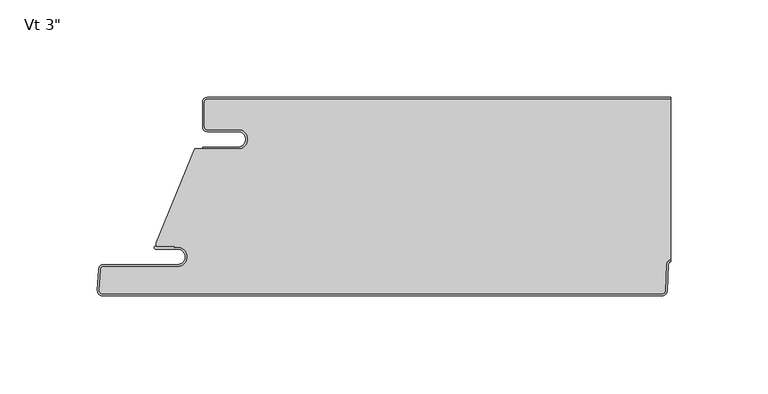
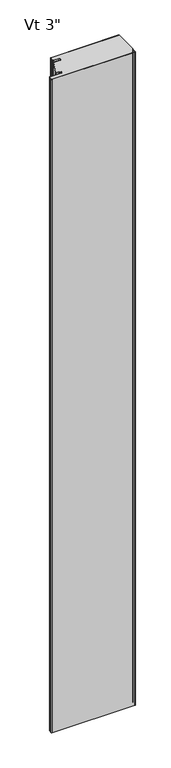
"""IFC4 building model written with IfcOpenShell, lengths in millimetres: plate geometry."""

from ifc_helpers import new_model, si_unit, point, frame_2d, origin, origin_with_axes, place, context, project, spatial, polyline, circle_curve, trimmed, segment, composite_curve, outline, extrude, source, transform, mapped, element, save


def plate_7b326403(model_context):
    return source(origin(), model_context, "Body", "SweptSolid", [
        extrude(outline(composite_curve([segment(polyline([(-101.3437498, -16.4625), (-117.2187498, -16.4625)]), True, "CONTINUOUS"), segment(trimmed(circle_curve(frame_2d((-117.2187498, -15.08125)), 1.38125), [point((-117.2187498, -16.4625))], [point((-118.5999998, -15.08125))], False, "CARTESIAN"), True, "CONTINUOUS"), segment(polyline([(-118.5999998, -15.08125), (-118.5999998, -2.38125)]), True, "CONTINUOUS"), segment(trimmed(circle_curve(frame_2d((-117.2187498, -2.38125)), 1.38125), [point((-118.5999998, -2.38125))], [point((-117.2187498, -1.0))], False, "CARTESIAN"), True, "CONTINUOUS"), segment(polyline([(-117.2187498, -1.0), (120.4062498, -1.0), (120.4062498, -83.191556)]), True, "CONTINUOUS"), segment(trimmed(circle_curve(frame_2d((120.9323848, -85.725)), 2.5875), [point((120.4062498, -83.191556))], [point((118.3484309, -85.5895807))], True, "CARTESIAN"), True, "CONTINUOUS"), segment(polyline([(118.3484309, -85.5895807), (117.6303679, -99.291039)]), True, "CONTINUOUS"), segment(trimmed(circle_curve(frame_2d((116.2510108, -99.21875)), 1.38125), [point((117.6303679, -99.291039))], [point((116.2510108, -100.6))], False, "CARTESIAN"), True, "CONTINUOUS"), segment(polyline([(116.2510108, -100.6), (-171.0799534, -100.6)]), True, "CONTINUOUS"), segment(trimmed(circle_curve(frame_2d((-171.0799534, -99.21875)), 1.38125), [point((-171.0799534, -100.6))], [point((-172.4593104, -99.146461))], False, "CARTESIAN"), True, "CONTINUOUS"), segment(polyline([(-172.4593104, -99.146461), (-171.876929, -88.033961)]), True, "CONTINUOUS"), segment(trimmed(circle_curve(frame_2d((-170.4975719, -88.10625)), 1.38125), [point((-171.876929, -88.033961))], [point((-170.4975719, -86.725))], False, "CARTESIAN"), True, "CONTINUOUS"), segment(polyline([(-170.4975719, -86.725), (-132.3142673, -86.725)]), True, "CONTINUOUS"), segment(trimmed(circle_curve(frame_2d((-132.3142673, -81.75625)), 4.96875), [point((-132.3142673, -86.725))], [point((-132.3142673, -76.7875))], True, "CARTESIAN"), True, "CONTINUOUS"), segment(polyline([(-132.3142673, -76.7875), (-133.9017673, -76.99375), (-133.9017673, -76.2), (-143.4124998, -76.2), (-143.4124998, -74.6157227), (-123.5260921, -26.4), (-101.3437498, -26.4)]), True, "CONTINUOUS"), segment(trimmed(circle_curve(frame_2d((-101.3437498, -21.43125)), 4.96875), [point((-101.3437498, -26.4))], [point((-101.3437498, -16.4625))], True, "CARTESIAN"), True, "CONTINUOUS")], self_intersect=False)), origin_with_axes(), (0.0, 0.0, 1.0), 2400.0),
        extrude(outline(composite_curve([segment(polyline([(-119.5999998, -25.4), (-101.3437498, -25.4)]), True, "CONTINUOUS"), segment(trimmed(circle_curve(frame_2d((-101.3437498, -21.43125)), 3.96875), [point((-101.3437498, -25.4))], [point((-101.3437498, -17.4625))], True, "CARTESIAN"), True, "CONTINUOUS"), segment(polyline([(-101.3437498, -17.4625), (-117.2187498, -17.4625)]), True, "CONTINUOUS"), segment(trimmed(circle_curve(frame_2d((-117.2187498, -15.08125)), 2.38125), [point((-117.2187498, -17.4625))], [point((-119.5999998, -15.08125))], False, "CARTESIAN"), True, "CONTINUOUS"), segment(polyline([(-119.5999998, -15.08125), (-119.5999998, -2.38125)]), True, "CONTINUOUS"), segment(trimmed(circle_curve(frame_2d((-117.2187498, -2.38125)), 2.38125), [point((-119.5999998, -2.38125))], [point((-117.2187498, 0.0))], False, "CARTESIAN"), True, "CONTINUOUS"), segment(polyline([(-117.2187498, 0.0), (120.4062498, 0.0), (120.4062498, -1.0), (-117.2187498, -1.0)]), True, "CONTINUOUS"), segment(trimmed(circle_curve(frame_2d((-117.2187498, -2.38125)), 1.38125), [point((-117.2187498, -1.0))], [point((-118.5999998, -2.38125))], True, "CARTESIAN"), True, "CONTINUOUS"), segment(polyline([(-118.5999998, -2.38125), (-118.5999998, -15.08125)]), True, "CONTINUOUS"), segment(trimmed(circle_curve(frame_2d((-117.2187498, -15.08125)), 1.38125), [point((-118.5999998, -15.08125))], [point((-117.2187498, -16.4625))], True, "CARTESIAN"), True, "CONTINUOUS"), segment(polyline([(-117.2187498, -16.4625), (-101.3437498, -16.4625)]), True, "CONTINUOUS"), segment(trimmed(circle_curve(frame_2d((-101.3437498, -21.43125)), 4.96875), [point((-101.3437498, -16.4625))], [point((-101.3437498, -26.4))], False, "CARTESIAN"), True, "CONTINUOUS"), segment(polyline([(-101.3437498, -26.4), (-119.5999998, -26.4), (-119.5999998, -25.4)]), True, "CONTINUOUS")], self_intersect=False)), origin_with_axes(), (0.0, 0.0, 1.0), 2400.0),
        extrude(outline(composite_curve([segment(polyline([(-143.6252048, -76.2), (-133.9017673, -76.2), (-133.9017673, -76.99375), (-132.3142673, -76.7875)]), True, "CONTINUOUS"), segment(trimmed(circle_curve(frame_2d((-132.3142673, -81.75625)), 4.96875), [point((-132.3142673, -76.7875))], [point((-132.3142673, -86.725))], False, "CARTESIAN"), True, "CONTINUOUS"), segment(polyline([(-132.3142673, -86.725), (-170.4975719, -86.725)]), True, "CONTINUOUS"), segment(trimmed(circle_curve(frame_2d((-170.4975719, -88.10625)), 1.38125), [point((-170.4975719, -86.725))], [point((-171.876929, -88.033961))], True, "CARTESIAN"), True, "CONTINUOUS"), segment(polyline([(-171.876929, -88.033961), (-172.4593104, -99.146461)]), True, "CONTINUOUS"), segment(trimmed(circle_curve(frame_2d((-171.0799534, -99.21875)), 1.38125), [point((-172.4593104, -99.146461))], [point((-171.0799534, -100.6))], True, "CARTESIAN"), True, "CONTINUOUS"), segment(polyline([(-171.0799534, -100.6), (116.2510108, -100.6)]), True, "CONTINUOUS"), segment(trimmed(circle_curve(frame_2d((116.2510108, -99.21875)), 1.38125), [point((116.2510108, -100.6))], [point((117.6303679, -99.291039))], True, "CARTESIAN"), True, "CONTINUOUS"), segment(polyline([(117.6303679, -99.291039), (118.3484309, -85.5895807)]), True, "CONTINUOUS"), segment(trimmed(circle_curve(frame_2d((120.9323848, -85.725)), 2.5875), [point((118.3484309, -85.5895807))], [point((120.4062498, -83.191556))], False, "CARTESIAN"), True, "CONTINUOUS"), segment(polyline([(120.4062498, -83.191556), (120.4062498, -84.2272222)]), True, "CONTINUOUS"), segment(trimmed(circle_curve(frame_2d((120.9323848, -85.725)), 1.5875), [point((120.4062498, -84.2272222))], [point((119.3470604, -85.6419167))], True, "CARTESIAN"), True, "CONTINUOUS"), segment(polyline([(119.3470604, -85.6419167), (118.6289974, -99.343375)]), True, "CONTINUOUS"), segment(trimmed(circle_curve(frame_2d((116.2510108, -99.21875)), 2.38125), [point((118.6289974, -99.343375))], [point((116.2510108, -101.6))], False, "CARTESIAN"), True, "CONTINUOUS"), segment(polyline([(116.2510108, -101.6), (-171.0799534, -101.6)]), True, "CONTINUOUS"), segment(trimmed(circle_curve(frame_2d((-171.0799534, -99.21875)), 2.38125), [point((-171.0799534, -101.6))], [point((-173.4579399, -99.094125))], False, "CARTESIAN"), True, "CONTINUOUS"), segment(polyline([(-173.4579399, -99.094125), (-172.8755585, -87.981625)]), True, "CONTINUOUS"), segment(trimmed(circle_curve(frame_2d((-170.4975719, -88.10625)), 2.38125), [point((-172.8755585, -87.981625))], [point((-170.4975719, -85.725))], False, "CARTESIAN"), True, "CONTINUOUS"), segment(polyline([(-170.4975719, -85.725), (-132.3142673, -85.725)]), True, "CONTINUOUS"), segment(trimmed(circle_curve(frame_2d((-132.3142673, -81.75625)), 3.96875), [point((-132.3142673, -85.725))], [point((-132.3142673, -77.7875))], True, "CARTESIAN"), True, "CONTINUOUS"), segment(polyline([(-132.3142673, -77.7875), (-143.6252048, -77.7875)]), True, "CONTINUOUS"), segment(trimmed(circle_curve(frame_2d((-143.6252048, -76.99375)), 0.79375), [point((-143.6252048, -77.7875))], [point((-143.6252048, -76.2))], False, "CARTESIAN"), True, "CONTINUOUS")], self_intersect=False)), origin_with_axes(), (0.0, 0.0, 1.0), 2400.0),
    ])


if __name__ == "__main__":
    model = new_model("IFC4")
    model_context = context("Model", 3, world=origin())
    ifc_project = project(units=[si_unit("LENGTHUNIT", "METRE", prefix="MILLI")], contexts=[model_context])
    site = spatial("IfcSite", under=ifc_project)
    building = spatial("IfcBuilding", under=site)
    placement = place(None, origin())
    plate_shape = plate_7b326403(model_context)
    element("IfcPlate", 1, ObjectType="KIP-12-DWHR-R19-CP-Vt-F : Vt 3\"", at=placement, inside=building, context=model_context, shape_type="MappedRepresentation", body=[
        mapped(plate_shape, transform((0.0, 0.0, 0.0), x_axis=(1.0, 0.0, 0.0), y_axis=(0.0, 1.0, 0.0), z_axis=(0.0, 0.0, 1.0))),
    ])
    save(model, "model.ifc")
